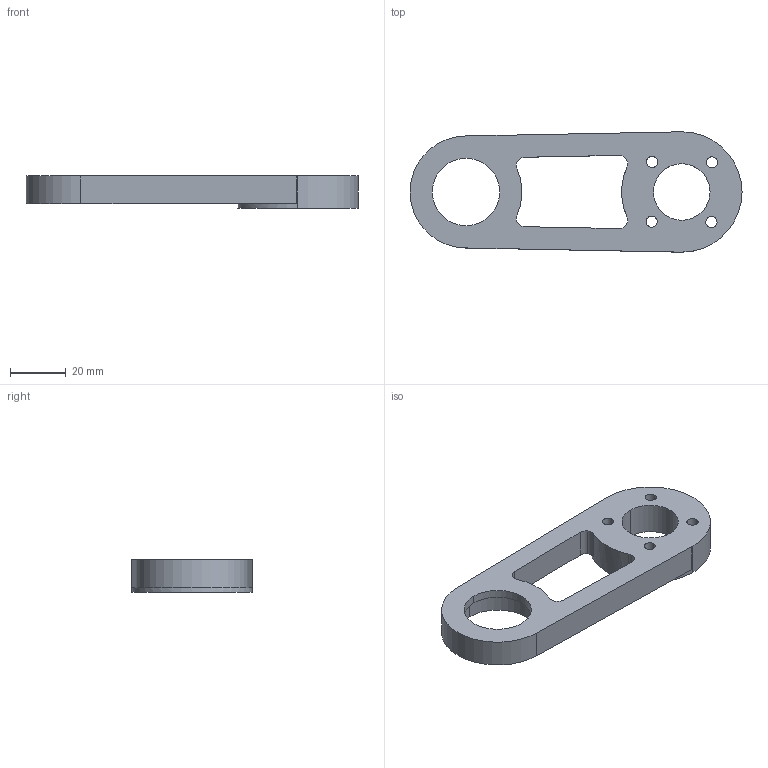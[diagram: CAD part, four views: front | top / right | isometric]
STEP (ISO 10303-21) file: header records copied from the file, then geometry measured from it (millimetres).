
FILE_DESCRIPTION (( 'STEP AP214' ), '1' );
FILE_NAME ('Cover.STEP', '2026-07-28T10:13:02', ( '' ), ( '' ), 'SwSTEP 2.0', 'SolidWorks 2024', '' );
FILE_SCHEMA (( 'AUTOMOTIVE_DESIGN' ));
Length unit declared in the file: millimetre
Products named in the file (1): Cover
Bounding box: 118.62 x 43 x 11.5 mm (x, y, z)
Volume: 28253.3 mm3; surface area: 12020 mm2
Topology: 1 solids, 1 shells, 34 faces, 96 edges, 64 vertices
Faces by surface type: cylinder 26, plane 8
Entity records: 1187 total; most frequent: DIRECTION 222, CARTESIAN_POINT 195, ORIENTED_EDGE 192, EDGE_CURVE 96, AXIS2_PLACEMENT_3D 91, VERTEX_POINT 64, CIRCLE 56, EDGE_LOOP 48
